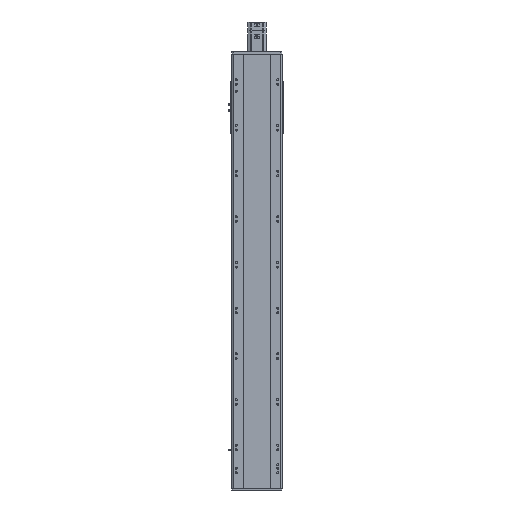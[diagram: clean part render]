
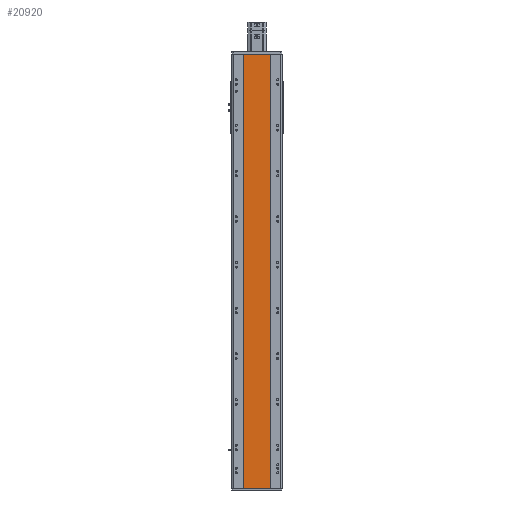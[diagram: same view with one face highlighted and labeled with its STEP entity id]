
A CAD part, front view. The second image highlights one B-rep face of the part: STEP entity #20920.
In plain terms, the highlighted planar face has unit normal (0, -1, 0).
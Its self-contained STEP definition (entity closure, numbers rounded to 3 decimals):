
#1823 = EDGE_CURVE ( 'NONE', #35601, #6960, #39611, .T. ) ;
#3058 = VECTOR ( 'NONE', #40484, 1000. ) ;
#3241 = CARTESIAN_POINT ( 'NONE',  ( -59., 1., 950.5 ) ) ;
#3720 = CARTESIAN_POINT ( 'NONE',  ( 59., 1., -950.5 ) ) ;
#4343 = DIRECTION ( 'NONE',  ( 0., 0., -1. ) ) ;
#5086 = DIRECTION ( 'NONE',  ( 1., 0., 0. ) ) ;
#6688 = CARTESIAN_POINT ( 'NONE',  ( 59., 1., 950.5 ) ) ;
#6960 = VERTEX_POINT ( 'NONE', #3720 ) ;
#7427 = CARTESIAN_POINT ( 'NONE',  ( -59., 1., 950.5 ) ) ;
#7554 = ORIENTED_EDGE ( 'NONE', *, *, #39364, .F. ) ;
#8218 = CARTESIAN_POINT ( 'NONE',  ( -59., 1., -950.5 ) ) ;
#10449 = VECTOR ( 'NONE', #5086, 1000. ) ;
#10702 = PLANE ( 'NONE',  #40403 ) ;
#10838 = CARTESIAN_POINT ( 'NONE',  ( -59., 1., 950.5 ) ) ;
#11687 = DIRECTION ( 'NONE',  ( 0., 0., -1. ) ) ;
#12784 = VECTOR ( 'NONE', #11687, 1000. ) ;
#12889 = ORIENTED_EDGE ( 'NONE', *, *, #1823, .F. ) ;
#16332 = ORIENTED_EDGE ( 'NONE', *, *, #25253, .T. ) ;
#17036 = DIRECTION ( 'NONE',  ( 0., 1., 0. ) ) ;
#18029 = CARTESIAN_POINT ( 'NONE',  ( -59., 1., -950.5 ) ) ;
#20129 = DIRECTION ( 'NONE',  ( -1., 0., 0. ) ) ;
#20875 = CARTESIAN_POINT ( 'NONE',  ( -59., 1., 950.5 ) ) ;
#20920 = ADVANCED_FACE ( 'NONE', ( #38572 ), #10702, .F. ) ;
#25253 = EDGE_CURVE ( 'NONE', #40147, #36256, #29226, .T. ) ;
#26565 = ORIENTED_EDGE ( 'NONE', *, *, #26835, .T. ) ;
#26835 = EDGE_CURVE ( 'NONE', #36256, #6960, #35763, .T. ) ;
#27786 = LINE ( 'NONE', #20875, #10449 ) ;
#29226 = LINE ( 'NONE', #7427, #34204 ) ;
#32949 = EDGE_LOOP ( 'NONE', ( #26565, #12889, #7554, #16332 ) ) ;
#33974 = CARTESIAN_POINT ( 'NONE',  ( 59., 1., 950.5 ) ) ;
#34204 = VECTOR ( 'NONE', #4343, 1000. ) ;
#35601 = VERTEX_POINT ( 'NONE', #6688 ) ;
#35763 = LINE ( 'NONE', #18029, #3058 ) ;
#36256 = VERTEX_POINT ( 'NONE', #8218 ) ;
#38572 = FACE_OUTER_BOUND ( 'NONE', #32949, .T. ) ;
#39364 = EDGE_CURVE ( 'NONE', #40147, #35601, #27786, .T. ) ;
#39611 = LINE ( 'NONE', #33974, #12784 ) ;
#40147 = VERTEX_POINT ( 'NONE', #3241 ) ;
#40403 = AXIS2_PLACEMENT_3D ( 'NONE', #10838, #17036, #20129 ) ;
#40484 = DIRECTION ( 'NONE',  ( 1., 0., 0. ) ) ;
